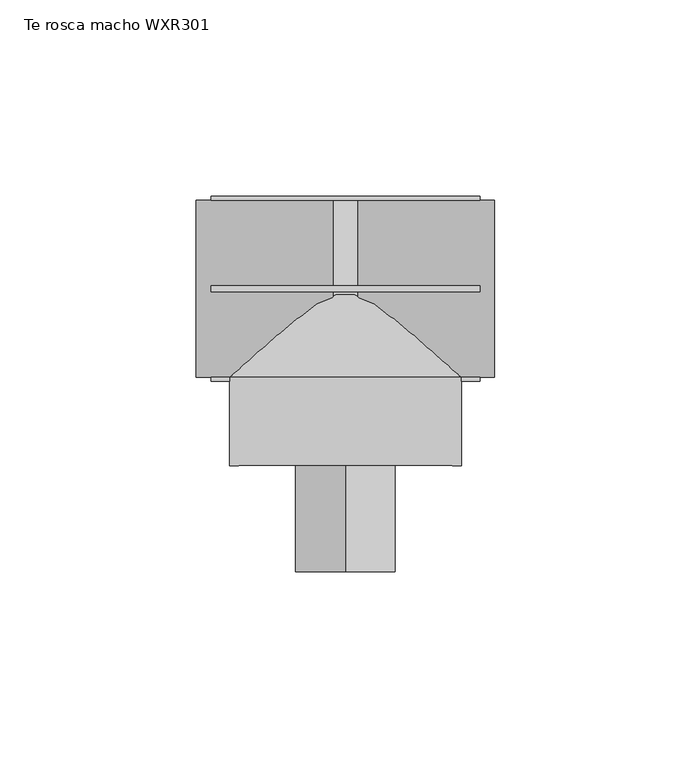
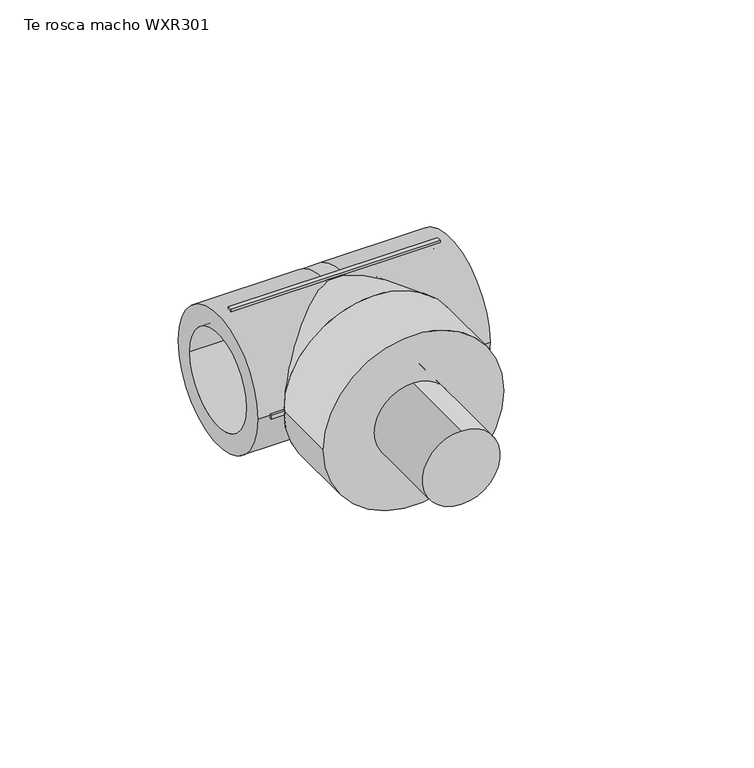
"""IFC4 building model written with IfcOpenShell, lengths in millimetres: pipe fitting geometry, EGB_VASEN_ PPR_Te rosca macho WXR301 : Te rosca macho WXR301."""

from ifc_helpers import new_model, si_unit, point, frame, origin, origin_2d, place, context, project, spatial, polyline, circle_curve, trimmed, segment, composite_curve, outline, extrude, source, transform, mapped, element, save
from ifc_brep_helpers import plane_surface, cylinder_surface, revolved_surface, advanced_brep


def te_rosca_macho_wxr301_d87c8da7(model_context):
    return source(origin(), model_context, "Body", "SolidModel", [
        extrude(outline(composite_curve([segment(trimmed(circle_curve(origin_2d(), 12.7), [point((-12.7, 0.0))], [point((12.7, 0.0))], False, "CARTESIAN"), True, "CONTINUOUS"), segment(trimmed(circle_curve(origin_2d(), 12.7), [point((12.7, 0.0))], [point((-12.7, 0.0))], False, "CARTESIAN"), True, "CONTINUOUS")], self_intersect=False)), frame((0.0, -72.0, 0.0), z_axis=(0.0, 1.0, 0.0), x_axis=(0.0, 0.0, 1.0)), (0.0, 0.0, 1.0), 48.5),
        advanced_brep(
        [(3.04, -16.0, 0.0), (3.04, 16.0, 0.0), (-3.04, 16.0, 0.0), (-3.04, -16.0, 0.0), (-3.04, 22.5, 0.0), (3.04, 22.5, 0.0), (3.04, -22.5, 0.0), (-3.04, -22.5, 0.0), (38.0, -22.5, 0.0), (38.0, 22.5, 0.0), (38.0, -16.0, 0.0), (38.0, 16.0, 0.0), (-38.0, -22.5, 0.0), (-38.0, 22.5, 0.0), (-38.0, -16.0, 0.0), (-38.0, 16.0, 0.0)],
        [
            (0, 1, circle_curve(frame((3.04, 0.0, 0.0), z_axis=(1.0, 0.0, 0.0), x_axis=(0.0, 1.0, 0.0)), 16.0)),
            (1, 0, circle_curve(frame((3.04, 0.0, 0.0), z_axis=(1.0, 0.0, 0.0), x_axis=(0.0, 1.0, 0.0)), 16.0)),
            (2, 3, circle_curve(frame((-3.04, 0.0, 0.0), z_axis=(-1.0, 0.0, 0.0), x_axis=(0.0, 1.0, 0.0)), 16.0)),
            (3, 2, circle_curve(frame((-3.04, 0.0, 0.0), z_axis=(-1.0, 0.0, 0.0), x_axis=(0.0, 1.0, 0.0)), 16.0)),
            (4, 5),
            (5, 6, circle_curve(frame((3.04, 0.0, 0.0), z_axis=(-1.0, 0.0, 0.0), x_axis=(0.0, 0.0, -1.0)), 22.5)),
            (6, 7),
            (7, 4, circle_curve(frame((-3.04, 0.0, 0.0), z_axis=(1.0, 0.0, 0.0), x_axis=(0.0, 0.0, -1.0)), 22.5)),
            (4, 7, circle_curve(frame((-3.04, 0.0, 0.0), z_axis=(1.0, 0.0, 0.0), x_axis=(0.0, 0.0, 1.0)), 22.5)),
            (6, 5, circle_curve(frame((3.04, 0.0, 0.0), z_axis=(-1.0, 0.0, 0.0), x_axis=(0.0, 0.0, 1.0)), 22.5)),
            (8, 9, circle_curve(frame((38.0, 0.0, 0.0), z_axis=(1.0, 0.0, 0.0), x_axis=(0.0, 1.0, 0.0)), 22.5)),
            (9, 8, circle_curve(frame((38.0, 0.0, 0.0), z_axis=(1.0, 0.0, 0.0), x_axis=(0.0, 1.0, 0.0)), 22.5)),
            (10, 11, circle_curve(frame((38.0, 0.0, 0.0), z_axis=(-1.0, 0.0, 0.0), x_axis=(0.0, 1.0, 0.0)), 16.0)),
            (11, 10, circle_curve(frame((38.0, 0.0, 0.0), z_axis=(-1.0, 0.0, 0.0), x_axis=(0.0, 1.0, 0.0)), 16.0)),
            (9, 5),
            (6, 8),
            (11, 1),
            (0, 10),
            (12, 13, circle_curve(frame((-38.0, 0.0, 0.0), z_axis=(-1.0, 0.0, 0.0), x_axis=(0.0, 1.0, 0.0)), 22.5)),
            (13, 12, circle_curve(frame((-38.0, 0.0, 0.0), z_axis=(-1.0, 0.0, 0.0), x_axis=(0.0, 1.0, 0.0)), 22.5)),
            (14, 15, circle_curve(frame((-38.0, 0.0, 0.0), z_axis=(1.0, 0.0, 0.0), x_axis=(0.0, 1.0, 0.0)), 16.0)),
            (15, 14, circle_curve(frame((-38.0, 0.0, 0.0), z_axis=(1.0, 0.0, 0.0), x_axis=(0.0, 1.0, 0.0)), 16.0)),
            (12, 7),
            (4, 13),
            (14, 3),
            (2, 15),
        ],
        [
            plane_surface(frame((3.04, 0.0, 0.0), z_axis=(1.0, 0.0, 0.0), x_axis=(0.0, 0.0, -1.0))),
            plane_surface(frame((-3.04, 0.0, 0.0), z_axis=(-1.0, 0.0, 0.0), x_axis=(0.0, 0.0, -1.0))),
            cylinder_surface(frame((-3.04, 0.0, 0.0), z_axis=(1.0, 0.0, 0.0), x_axis=(0.0, 0.0, -1.0)), 22.5),
            cylinder_surface(frame((-3.04, 0.0, 0.0), z_axis=(1.0, 0.0, 0.0), x_axis=(0.0, 0.0, 1.0)), 22.5),
            plane_surface(frame((38.0, 0.0, 0.0), z_axis=(1.0, 0.0, 0.0), x_axis=(0.0, 0.0, 1.0))),
            cylinder_surface(frame((3.04, 0.0, 0.0), z_axis=(-1.0, 0.0, 0.0), x_axis=(0.0, 1.0, 0.0)), 22.5),
            revolved_surface(polyline([(38.0, 16.0, 0.0), (3.04, 16.0, 0.0)]), (3.04, 0.0, 0.0), (1.0, 0.0, 0.0)),
            plane_surface(frame((-38.0, 0.0, 0.0), z_axis=(-1.0, 0.0, 0.0), x_axis=(0.0, 0.0, 1.0))),
            cylinder_surface(frame((-38.0, 0.0, 0.0), z_axis=(-1.0, 0.0, 0.0), x_axis=(0.0, 1.0, 0.0)), 22.5),
            revolved_surface(polyline([(-3.039999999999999, 16.0, 0.0), (-38.0, 16.0, 0.0)]), (-38.0, 0.0, 0.0), (1.0, 0.0, 0.0)),
        ],
        [
            (0, [[1, 2]]),
            (1, [[3, 4]]),
            (2, [[5, 6, 7, 8]]),
            (3, [[-5, 9, -7, 10]]),
            (4, [[11, 12], [13, 14]]),
            (5, [[-12, 15, -10, 16]]),
            (5, [[-11, -16, -6, -15]]),
            (6, [[-14, 17, -1, 18]]),
            (6, [[-13, -18, -2, -17]]),
            (7, [[19, 20], [21, 22]]),
            (8, [[-19, 23, -9, 24]]),
            (8, [[-20, -24, -8, -23]]),
            (9, [[-21, 25, -3, 26]]),
            (9, [[-22, -26, -4, -25]]),
        ],
    ),
        extrude(outline(composite_curve([segment(trimmed(circle_curve(origin_2d(), 29.5), [point((0.0, 29.5))], [point((0.0, -29.5))], False, "CARTESIAN"), True, "CONTINUOUS"), segment(trimmed(circle_curve(origin_2d(), 29.5), [point((0.0, -29.5))], [point((0.0, 29.5))], False, "CARTESIAN"), True, "CONTINUOUS")], self_intersect=False), holes=[composite_curve([segment(trimmed(circle_curve(origin_2d(), 12.7), [point((0.0, 12.7))], [point((0.0, -12.7))], True, "CARTESIAN"), True, "CONTINUOUS"), segment(trimmed(circle_curve(origin_2d(), 12.7), [point((0.0, -12.7))], [point((0.0, 12.7))], True, "CARTESIAN"), True, "CONTINUOUS")], self_intersect=False)]), frame((0.0, -45.0, 0.0), z_axis=(0.0, 1.0, 0.0), x_axis=(0.0, 0.0, 1.0)), (0.0, 0.0, 1.0), 22.5),
        advanced_brep(
        [(22.5, 0.0, 0.0), (-22.5, 0.0, 0.0), (29.5, -22.5, 0.0), (-29.5, -22.5, 0.0)],
        [
            (0, 1, circle_curve(frame((0.0, 0.0, 0.0), z_axis=(0.0, 1.0, 0.0), x_axis=(1.0, 0.0, 0.0)), 22.5)),
            (1, 0, circle_curve(frame((0.0, 0.0, 0.0), z_axis=(0.0, 1.0, 0.0), x_axis=(-1.0, 0.0, 0.0)), 22.5)),
            (2, 3, circle_curve(frame((0.0, -22.5, 0.0), z_axis=(0.0, -1.0, 0.0), x_axis=(-1.0, 0.0, 0.0)), 29.5)),
            (3, 2, circle_curve(frame((0.0, -22.5, 0.0), z_axis=(0.0, -1.0, 0.0), x_axis=(1.0, 0.0, 0.0)), 29.5)),
            (3, 1),
            (0, 2),
        ],
        [
            plane_surface(frame((0.0, 0.0, 0.0), z_axis=(0.0, 1.0, 0.0), x_axis=(0.0, 0.0, -1.0))),
            plane_surface(frame((0.0, -22.5, 0.0), z_axis=(0.0, -1.0, 0.0), x_axis=(0.0, 0.0, -1.0))),
            revolved_surface(polyline([(22.50000000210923, 0.0, 0.0), (29.5, -22.5, 0.0)]), (0.0, 72.3214286, 0.0), (0.0, -1.0, 0.0)),
            revolved_surface(polyline([(-22.50000000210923, 0.0, 0.0), (-29.5, -22.5, 0.0)]), (0.0, 72.3214286, 0.0), (0.0, -1.0, 0.0)),
        ],
        [
            (0, [[1, 2]]),
            (1, [[3, 4]]),
            (2, [[-4, 5, -1, 6]]),
            (3, [[-3, -6, -2, -5]]),
        ],
    ),
        extrude(outline(polyline([(34.2, 0.75), (34.2, -0.75), (-34.2, -0.75), (-34.2, 0.75), (34.2, 0.75)])), frame((0.0, 0.0, 21.5), z_axis=(0.0, 0.0, 1.0), x_axis=(1.0, 0.0, 0.0)), (0.0, 0.0, 1.0), 2.0),
        extrude(outline(polyline([(34.2, 0.75), (34.2, -0.75), (-34.2, -0.75), (-34.2, 0.75), (34.2, 0.75)])), frame((0.0, 0.0, -23.5), z_axis=(0.0, 0.0, 1.0), x_axis=(1.0, 0.0, 0.0)), (0.0, 0.0, 1.0), 2.0),
        extrude(outline(polyline([(34.2, 23.5), (34.2, 21.5), (-34.2, 21.5), (-34.2, 23.5), (34.2, 23.5)])), frame((0.0, 0.0, -0.75), z_axis=(0.0, 0.0, 1.0), x_axis=(1.0, 0.0, 0.0)), (0.0, 0.0, 1.0), 1.5),
        extrude(outline(polyline([(34.2, -21.5), (34.2, -23.5), (-34.2, -23.5), (-34.2, -21.5), (34.2, -21.5)])), frame((0.0, 0.0, -0.75), z_axis=(0.0, 0.0, 1.0), x_axis=(1.0, 0.0, 0.0)), (0.0, 0.0, 1.0), 1.5),
    ])


if __name__ == "__main__":
    model = new_model("IFC4")
    model_context = context("Model", 3, world=origin())
    ifc_project = project(units=[si_unit("LENGTHUNIT", "METRE", prefix="MILLI")], contexts=[model_context])
    site = spatial("IfcSite", under=ifc_project)
    building = spatial("IfcBuilding", under=site)
    placement = place(None, origin())
    te_rosca_macho_wxr301_shape = te_rosca_macho_wxr301_d87c8da7(model_context)
    element("IfcPipeFitting", 1, ObjectType="EGB_VASEN_ PPR_Te rosca macho WXR301 : Te rosca macho WXR301", at=placement, inside=building, context=model_context, shape_type="MappedRepresentation", body=[
        mapped(te_rosca_macho_wxr301_shape, transform((0.0, 0.0, 0.0), x_axis=(1.0, 0.0, 0.0), y_axis=(0.0, 1.0, 0.0), z_axis=(0.0, 0.0, 1.0))),
    ])
    save(model, "model.ifc")
